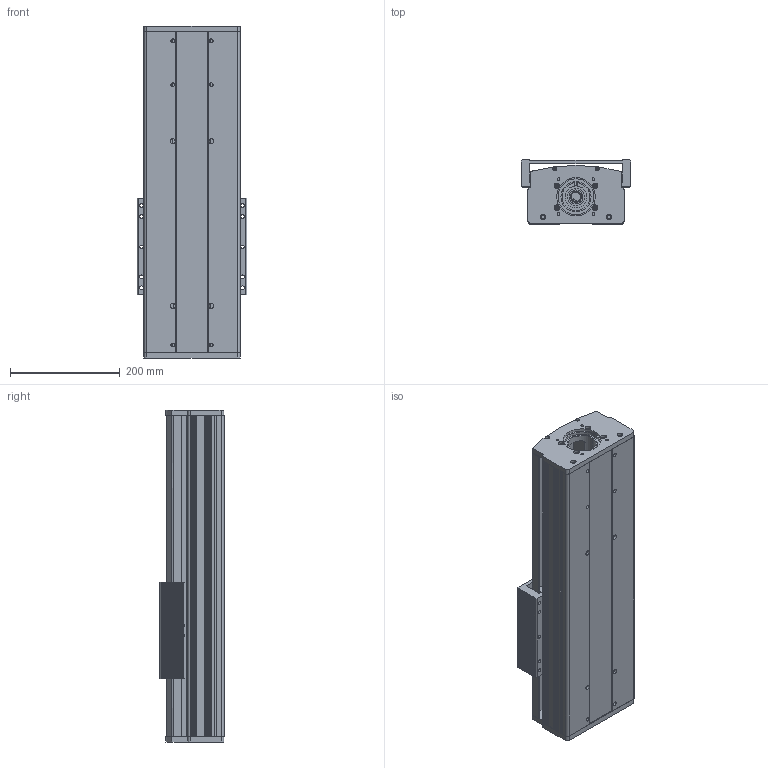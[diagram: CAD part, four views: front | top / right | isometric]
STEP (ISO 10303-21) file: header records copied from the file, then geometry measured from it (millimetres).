
FILE_DESCRIPTION (( 'STEP AP203' ), '1' );
FILE_NAME ('CF175-2-P250.STEP', '2016-03-11T05:37:14', ( 'Sky123.Org' ), ( 'Sky123.Org' ), 'SwSTEP 2.0', 'SolidWorks 2015', '' );
FILE_SCHEMA (( 'CONFIG_CONTROL_DESIGN' ));
Length unit declared in the file: millimetre
Products named in the file (13): SFU2505-4; 175-2梓袧嘐隅釱; X1-SFS2525-1185; 175-2侜督80萇儂釱; 175-2耜啣; CF175-2-P250; 175-2盓傅釱; CF175-2蹟譫釱; Y1-CF175-2-P1200-1547裔啣; Y1-CF175-2-P1200-1547臏倰第; Y1-HGR20-1500絳寢; CF-HGH20CA賑輸; CF175-2賑雄啣
Assembly tree (16 placements, depth 2):
  CF175-2-P250
    CF-HGH20CA賑輸  x4
    SFU2505-4
    X1-SFS2525-1185
    175-2耜啣
    175-2盓傅釱
    CF175-2蹟譫釱
    Y1-CF175-2-P1200-1547裔啣
    Y1-CF175-2-P1200-1547臏倰第
    Y1-HGR20-1500絳寢  x2
    CF175-2賑雄啣
    175-2梓袧嘐隅釱
    175-2侜督80萇儂釱
Bounding box: 200 x 116.8 x 605 mm (x, y, z)
Volume: 5968479.7 mm3; surface area: 1570643.9 mm2
Topology: 22 solids, 22 shells, 1376 faces, 3651 edges, 2418 vertices
Faces by surface type: cylinder 707, plane 645, cone 20, bspline 4
Entity records: 41344 total; most frequent: CARTESIAN_POINT 11193, DIRECTION 6204, ORIENTED_EDGE 5832, EDGE_CURVE 2916, AXIS2_PLACEMENT_3D 2308, VERTEX_POINT 1930, VECTOR 1588, LINE 1588
